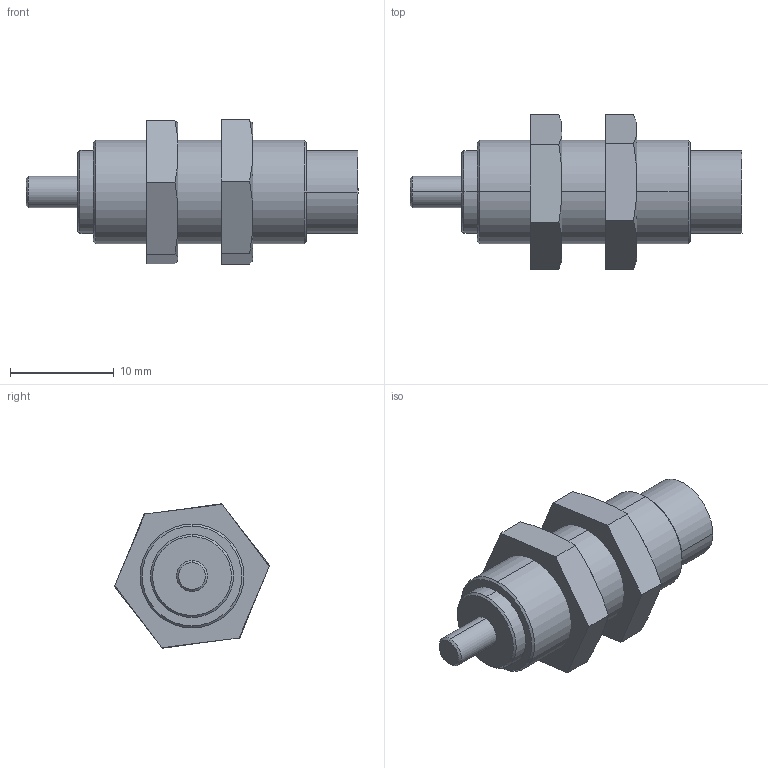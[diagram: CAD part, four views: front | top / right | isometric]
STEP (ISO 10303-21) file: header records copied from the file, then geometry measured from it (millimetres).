
FILE_DESCRIPTION (( 'STEP AP203' ), '1' );
FILE_NAME ('FSA-1005AA.STEP', '2016-03-17T07:42:39', ( 'Sam Lin' ), ( '' ), 'SwSTEP 2.0', 'SolidWorks 2013', '' );
FILE_SCHEMA (( 'CONFIG_CONTROL_DESIGN' ));
Length unit declared in the file: metre
Products named in the file (3): FSA-1005AA; FSA-1005AA_1; M10x1-3mm_1
Assembly tree (3 placements, depth 2):
  FSA-1005AA
    FSA-1005AA_1
    M10x1-3mm_1  x2
Bounding box: 32 x 14.89 x 13.93 mm (x, y, z)
Volume: 2464.7 mm3; surface area: 1763.8 mm2
Topology: 3 solids, 3 shells, 53 faces, 114 edges, 70 vertices
Faces by surface type: plane 21, cylinder 12, bspline 12, cone 8
Entity records: 1429 total; most frequent: CARTESIAN_POINT 337, DIRECTION 164, ORIENTED_EDGE 156, EDGE_CURVE 78, AXIS2_PLACEMENT_3D 67, VERTEX_POINT 48, EDGE_LOOP 42, FACE_OUTER_BOUND 37
